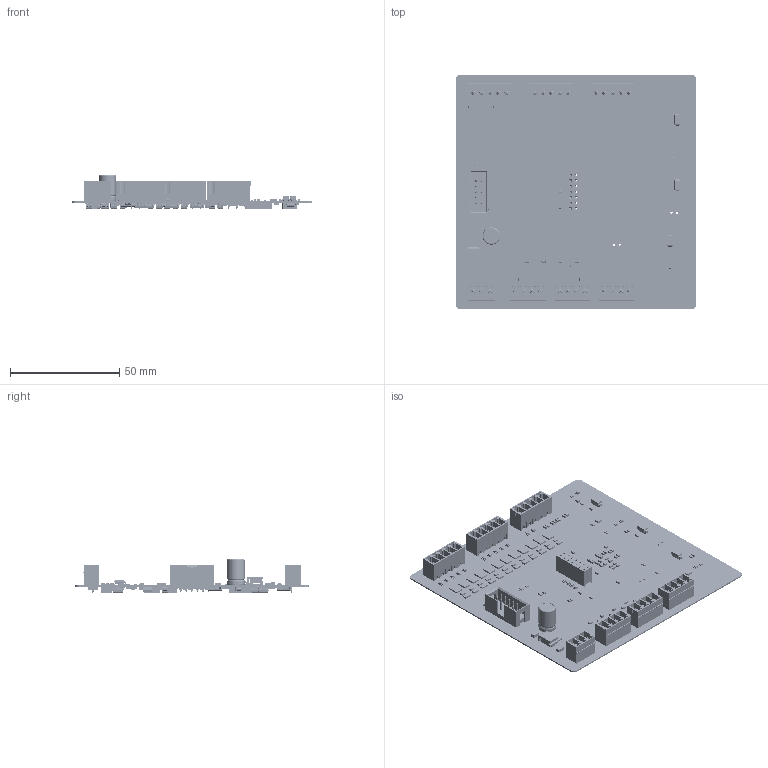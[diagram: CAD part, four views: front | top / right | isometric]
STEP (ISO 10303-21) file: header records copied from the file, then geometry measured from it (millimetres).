
FILE_DESCRIPTION (( 'STEP AP214' ), '1' );
FILE_NAME ('EA0812D V1.0.STEP', '2019-05-13T03:21:04', ( 'xt256.com' ), ( 'xt256.com' ), 'SwSTEP 2.0', 'SolidWorks 2016', '' );
FILE_SCHEMA (( 'AUTOMOTIVE_DESIGN' ));
Length unit declared in the file: millimetre
Products named in the file (1531): 657640208-54; Lötende; C93; R176; 657645072-23; C5; 657639312-18; 657640208-81; U48; 657639696-74; R196; LED_0805_green; 657639696-42; 657635856-69; 657640080-24; R64; 657639824-53; 657640208-1; 2.54-2X5P-M180-K_3; C126; 657640464-21; 657644560-2; 657641744-6; 657635856-90; C45; R114; Extruded; 657635856-17; R202; C140; R229; 2.54-2X7P-F180_12; 657640080-69; 657642000-2; 657640080-47; R132; 657639568-1; 657639696-9; 657635856-46; 657640464-45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
Assembly tree (2583 placements, depth 4):
  EA0812D V1.0
    C48
      657639696
        Extruded
      657639696-1
        Extruded
      657639824
        Extruded_2
    R235
      657635856
        Extruded_3
      657639312
        Extruded_4
      657635856-1
        Extruded_3
    R234
      657635856-2
        Extruded_3
      657639312-1
        Extruded_4
      657635856-3
        Extruded_3
    R233
      657635856-4
        Extruded_3
      657639312-2
        Extruded_4
      657635856-5
        Extruded_3
    C1
      657639952
        Extruded_5
      657640080
        Extruded_6
      657640080-1
        Extruded_6
    C2
      657639824-1
        Extruded_2
      657639696-2
        Extruded
      657639696-3
        Extruded
    C3
      657639952-1
        Extruded_5
      657640080-2
        Extruded_6
      657640080-3
        Extruded_6
    C4
      657639824-2
        Extruded_2
      657639696-4
        Extruded
      657639696-5
        Extruded
    C5
      Cap350-800x1200
    C6
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Bounding box: 110.02 x 107.02 x 15.47 mm (x, y, z)
Volume: 17010.9 mm3; surface area: 50149.6 mm2
Topology: 1160 solids, 1160 shells, 16619 faces, 41203 edges, 27196 vertices
Faces by surface type: plane 12317, cylinder 3018, bspline 764, torus 448, sphere 72
Entity records: 191769 total; most frequent: CARTESIAN_POINT 46273, DIRECTION 25306, ORIENTED_EDGE 21364, EDGE_CURVE 10682, AXIS2_PLACEMENT_3D 9045, VECTOR 7216, LINE 7216, VERTEX_POINT 6874
